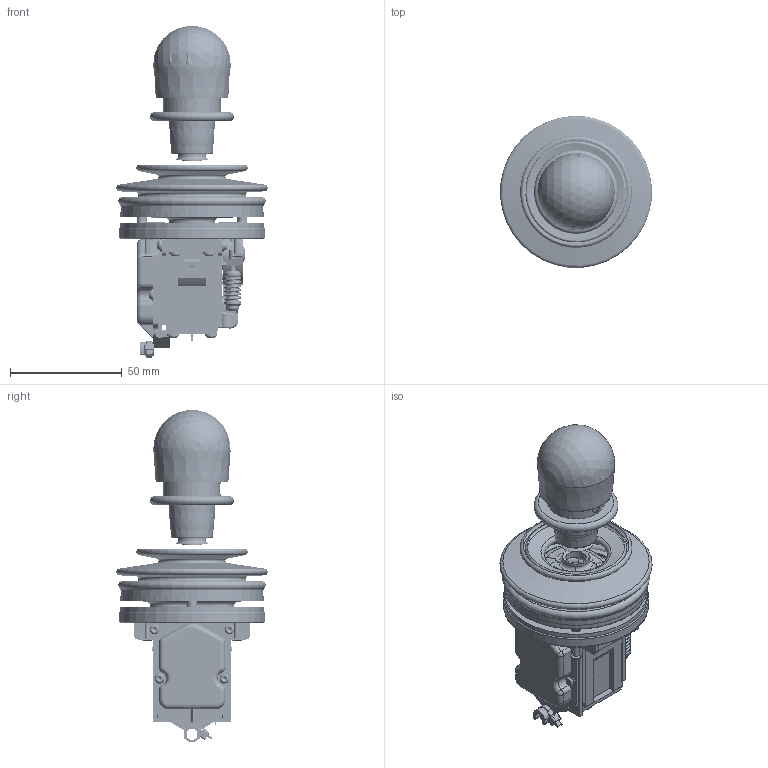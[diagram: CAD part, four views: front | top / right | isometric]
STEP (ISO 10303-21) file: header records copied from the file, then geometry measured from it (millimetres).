
FILE_DESCRIPTION(/* description */ ('','CAx-IF Rec.Pracs.---Representation and Presentation of Product Manufacturing Information (PMI)---4.0---2014-10-13'),/* implementation_level */ '2;1');
FILE_NAME(/* name */ 'S:\Entwicklung\01_CAD-Daten\01_AIDATA-GT\1_1_Joysticks\SK216\Zusammenstellungen\STEP\SK216-012.stp',/* time_stamp */ '2021-11-19T13:58:20+01:00',/* author */ ('mk'),/* organization */ (''),/* preprocessor_version */ 'ST-DEVELOPER v18.1',/* originating_system */ 'Autodesk Inventor 2021',/* authorisation */ '');
FILE_SCHEMA (('AP242_MANAGED_MODEL_BASED_3D_ENGINEERING_MIM_LF { 1 0 10303 442 1 1 4 }'));
Length unit declared in the file: millimetre
Products named in the file (1): SK216-012_Shrinkwrap_1
Bounding box: 67.83 x 67.83 x 148.45 mm (x, y, z)
Volume: 91613 mm3; surface area: 118276.9 mm2
Topology: 63 solids, 65 shells, 3847 faces, 9879 edges, 6376 vertices
Faces by surface type: plane 1719, cylinder 1062, bspline 454, cone 308, torus 270, sphere 34
Full cylindrical faces by diameter (mm): 0.1 x4, 1.35 x8, 1.4 x1, 1.425 x3, 1.5 x7, 1.7 x2, 1.83 x1, 1.9 x1, 2 x26, 2.013 x2, 2.076 x2, 2.1 x1, 2.15 x3, 2.225 x6, 2.3 x1, 2.4 x4, 2.459 x1, 2.5 x21, 2.54 x1, 2.55 x9, 2.6 x10, 2.601 x2, 2.65 x2, 2.7 x19, 2.775 x2, 2.83 x4, 3 x9, 3.05 x2, 3.1 x2, 3.15 x4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
Entity records: 151836 total; most frequent: CARTESIAN_POINT 55754, ORIENTED_EDGE 19700, DIRECTION 18212, EDGE_CURVE 9854, AXIS2_PLACEMENT_3D 6631, VERTEX_POINT 6376, LINE 4950, VECTOR 4950
